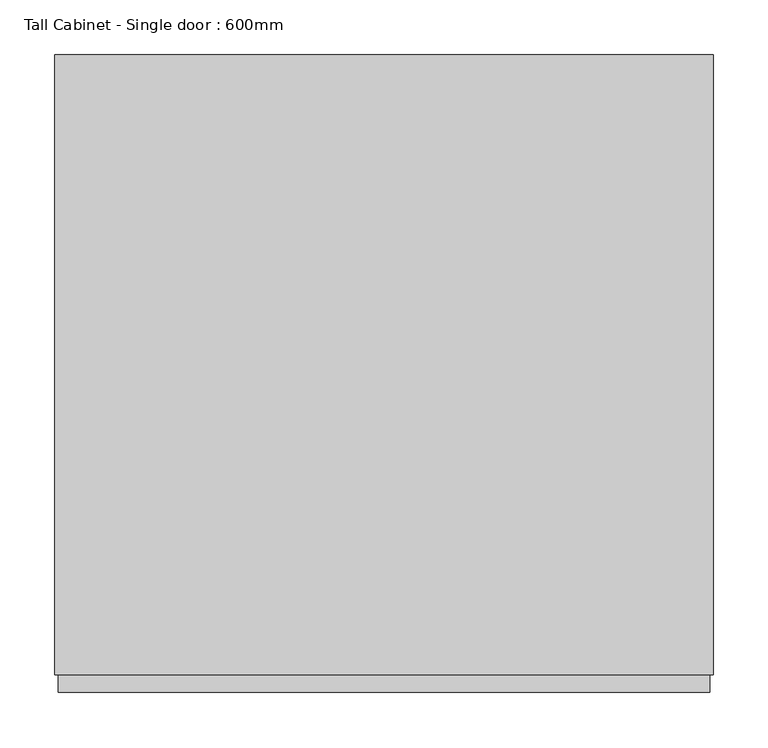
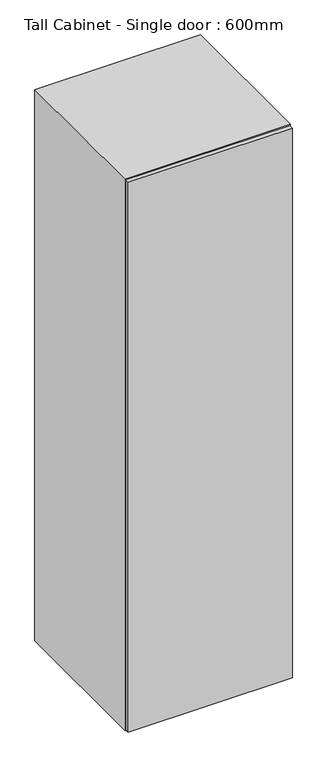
"""IFC4 building model written with IfcOpenShell, lengths in millimetres: furniture geometry, Tall Cabinet - Single door : 600mm."""

from ifc_helpers import new_model, si_unit, frame, origin, place, context, project, spatial, polyline, outline, extrude, source, transform, mapped, element, save


def tall_cabinet_single_door_600mm_148eb7a2(model_context):
    return source(origin(), model_context, "Body", "SweptSolid", [
        extrude(outline(polyline([(341.7003264, -581.0), (-252.2996736, -581.0), (-252.2996736, -565.0), (341.7003264, -565.0), (341.7003264, -581.0)])), frame((0.0, 0.0, 167.0), z_axis=(0.0, 0.0, 1.0), x_axis=(1.0, 0.0, 0.0)), (0.0, 0.0, 1.0), 2102.0),
        extrude(outline(polyline([(328.7003264, -10.0), (328.7003264, -16.0), (-239.2996736, -16.0), (-239.2996736, -10.0), (328.7003264, -10.0)])), frame((0.0, 0.0, 180.0), z_axis=(0.0, 0.0, 1.0), x_axis=(1.0, 0.0, 0.0)), (0.0, 0.0, 1.0), 2076.0),
        extrude(outline(polyline([(2272.0, 344.7003264), (2272.0, -255.2996736), (164.0, -255.2996736), (164.0, 344.7003264), (2272.0, 344.7003264)]), holes=[polyline([(2256.0, 328.7003264), (180.0, 328.7003264), (180.0, -239.2996736), (2256.0, -239.2996736), (2256.0, 328.7003264)])]), frame((0.0, -565.0, 0.0), z_axis=(0.0, 1.0, 0.0), x_axis=(0.0, 0.0, 1.0)), (0.0, 0.0, 1.0), 565.0),
    ])


if __name__ == "__main__":
    model = new_model("IFC4")
    model_context = context("Model", 3, world=origin())
    ifc_project = project(units=[si_unit("LENGTHUNIT", "METRE", prefix="MILLI")], contexts=[model_context])
    site = spatial("IfcSite", under=ifc_project)
    building = spatial("IfcBuilding", under=site)
    placement = place(None, origin())
    tall_cabinet_single_door_600mm_shape = tall_cabinet_single_door_600mm_148eb7a2(model_context)
    element("IfcFurniture", 1, ObjectType="Tall Cabinet - Single door : 600mm", at=placement, inside=building, context=model_context, shape_type="MappedRepresentation", body=[
        mapped(tall_cabinet_single_door_600mm_shape, transform((0.0, 0.0, 0.0), x_axis=(1.0, 0.0, 0.0), y_axis=(0.0, 1.0, 0.0), z_axis=(0.0, 0.0, 1.0))),
    ])
    save(model, "model.ifc")
